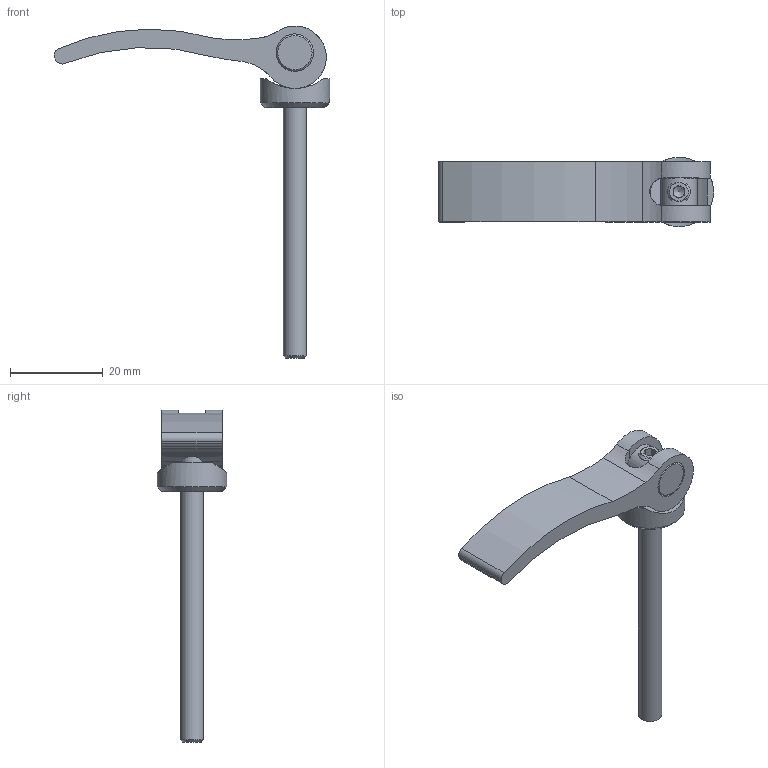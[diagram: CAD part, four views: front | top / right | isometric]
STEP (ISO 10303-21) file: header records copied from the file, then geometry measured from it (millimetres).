
FILE_DESCRIPTION(('STEP AP203'), '1');
FILE_NAME('À00360.11590520 _ Ýêñöåíòðèê 59 ìì', '', ('UNSPECIFIED'), ('UNSPECIFIED'), 'C3D Converter', 'C3D Toolkit', '');
FILE_SCHEMA(('CONFIG_CONTROL_DESIGN'));
Length unit declared in the file: millimetre
Products named in the file (5): А00360.59.03; А00360.59.02; А00360.59.01
Assembly tree (4 placements, depth 2):
  (unnamed)
    А00360.59.03
    А00360.59.02
    А00360.59.01
    (unnamed)
Bounding box: 59.48 x 14.99 x 71.75 mm (x, y, z)
Volume: 5776.9 mm3; surface area: 4713 mm2
Topology: 4 solids, 4 shells, 49 faces, 123 edges, 80 vertices
Faces by surface type: plane 24, cylinder 19, cone 6
Full cylindrical faces by diameter (mm): 4.134 x1, 5 x1, 5.5 x1, 8 x1, 8.1 x2, 15 x1
Entity records: 2556 total; most frequent: CARTESIAN_POINT 1041, DIRECTION 254, ORIENTED_EDGE 218, EDGE_CURVE 109, AXIS2_PLACEMENT_3D 105, VERTEX_POINT 79, EDGE_LOOP 68, FACE_BOUND 57
